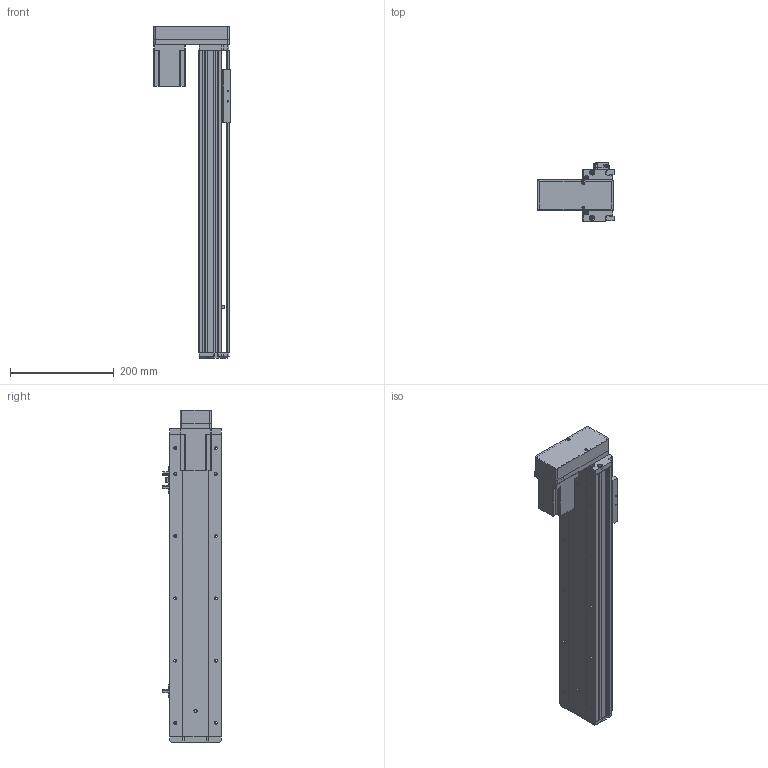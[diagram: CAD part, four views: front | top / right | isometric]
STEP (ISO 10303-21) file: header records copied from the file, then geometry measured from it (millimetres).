
FILE_DESCRIPTION (( 'STEP AP214' ), '1' );
FILE_NAME ('KSD100S-S400-MD-CM.STEP', '2019-08-30T03:22:01', ( '微软用户' ), ( '微软中国' ), 'SwSTEP 2.0', 'SolidWorks 2014', '' );
FILE_SCHEMA (( 'AUTOMOTIVE_DESIGN' ));
Length unit declared in the file: millimetre
Products named in the file (11): KSD100S-S400-MD-CM; 悵誘欶奻狟殏; 100宽马达安装板连板上下折丝杆同步带; 侂狟200W萇儂; 覜茼え100遵圉猾敕; U倰嫖萇EEㄜSX672; 100宽防尘板丝杆400行程; 100遵鎮湛假蚾啣; 100宽滚珠螺姆安装板半封闭; 100遵傷啣; 100宽底板半封闭丝杆400行程
Assembly tree (12 placements, depth 2):
  KSD100S-S400-MD-CM
    100宽底板半封闭丝杆400行程
    100遵傷啣
    100宽滚珠螺姆安装板半封闭
    100遵鎮湛假蚾啣
    100宽防尘板丝杆400行程
    U倰嫖萇EEㄜSX672  x3
    覜茼え100遵圉猾敕
    侂狟200W萇儂
    100宽马达安装板连板上下折丝杆同步带
    悵誘欶奻狟殏
Bounding box: 147 x 113.7 x 640.5 mm (x, y, z)
Volume: 1618319.1 mm3; surface area: 539260.8 mm2
Topology: 13 solids, 13 shells, 1175 faces, 3306 edges, 2111 vertices
Faces by surface type: cylinder 568, plane 500, cone 107
Entity records: 41447 total; most frequent: CARTESIAN_POINT 7571, DIRECTION 5517, ORIENTED_EDGE 5304, EDGE_CURVE 2652, AXIS2_PLACEMENT_3D 1997, VERTEX_POINT 1735, VECTOR 1523, LINE 1523
